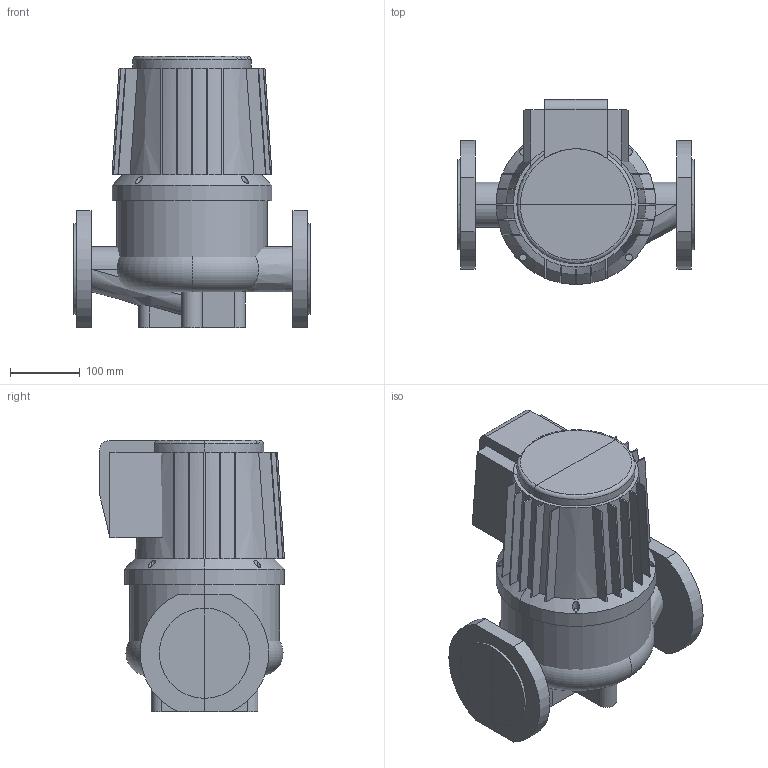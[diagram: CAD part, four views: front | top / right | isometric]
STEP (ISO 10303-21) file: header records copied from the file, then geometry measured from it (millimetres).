
FILE_DESCRIPTION(/* description */ (''),/* implementation_level */ '2;1');
FILE_NAME(/* name */ 'C:\Users\a.zyazeva\Desktop\Wellmix\TG TD WRE WRS\WRS 65-180 SF (380 В).stp',/* time_stamp */ '2024-08-28T00:51:34+03:00',/* author */ ('a.zyazeva'),/* organization */ (''),/* preprocessor_version */ 'ST-DEVELOPER v18.1',/* originating_system */ 'Autodesk Inventor 2022',/* authorisation */ '');
FILE_SCHEMA (('AUTOMOTIVE_DESIGN { 1 0 10303 214 3 1 1 }'));
Length unit declared in the file: millimetre
Products named in the file (1): WRS 65-180 SF (380 В)
Bounding box: 340 x 266 x 390 mm (x, y, z)
Volume: 17359293.1 mm3; surface area: 943904.5 mm2
Topology: 6 solids, 6 shells, 175 faces, 427 edges, 265 vertices
Faces by surface type: plane 105, cylinder 30, cone 17, bspline 17, torus 6
Entity records: 6506 total; most frequent: CARTESIAN_POINT 2593, ORIENTED_EDGE 854, DIRECTION 725, EDGE_CURVE 427, VERTEX_POINT 265, AXIS2_PLACEMENT_3D 258, LINE 209, VECTOR 209
